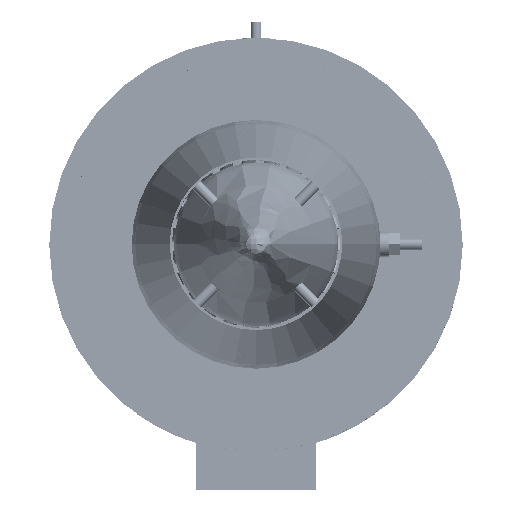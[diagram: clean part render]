
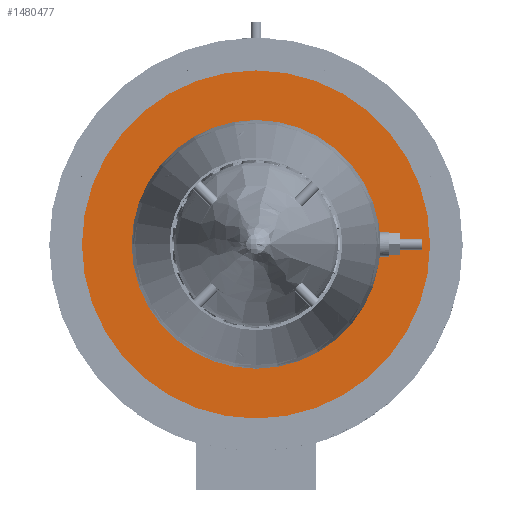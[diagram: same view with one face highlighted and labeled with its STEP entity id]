
A CAD part, top view. The second image highlights one B-rep face of the part: STEP entity #1480477.
In plain terms, the highlighted planar face has unit normal (0, 0, 1).
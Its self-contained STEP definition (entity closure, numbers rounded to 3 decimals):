
#1479051 = CYLINDRICAL_SURFACE('',#1479052,64.);
#1479052 = AXIS2_PLACEMENT_3D('',#1479053,#1479054,#1479055);
#1479053 = CARTESIAN_POINT('',(0.,0.,
    206.5));
#1479054 = DIRECTION('',(-0.,-0.,-1.));
#1479055 = DIRECTION('',(1.,0.,0.));
#1479168 = CYLINDRICAL_SURFACE('',#1479169,45.703);
#1479169 = AXIS2_PLACEMENT_3D('',#1479170,#1479171,#1479172);
#1479170 = CARTESIAN_POINT('',(0.,0.,240.));
#1479171 = DIRECTION('',(-0.,-0.,-1.));
#1479172 = DIRECTION('',(1.,0.,0.));
#1480237 = VERTEX_POINT('',#1480238);
#1480238 = CARTESIAN_POINT('',(64.,0.,207.7));
#1480261 = EDGE_CURVE('',#1480237,#1480237,#1480262,.T.);
#1480262 = SURFACE_CURVE('',#1480263,(#1480268,#1480275),.PCURVE_S1.);
#1480263 = CIRCLE('',#1480264,64.);
#1480264 = AXIS2_PLACEMENT_3D('',#1480265,#1480266,#1480267);
#1480265 = CARTESIAN_POINT('',(0.,0.,
    207.7));
#1480266 = DIRECTION('',(0.,0.,-1.));
#1480267 = DIRECTION('',(1.,0.,0.));
#1480268 = PCURVE('',#1479051,#1480269);
#1480269 = DEFINITIONAL_REPRESENTATION('',(#1480270),#1480274);
#1480270 = LINE('',#1480271,#1480272);
#1480271 = CARTESIAN_POINT('',(0.,-1.2));
#1480272 = VECTOR('',#1480273,1.);
#1480273 = DIRECTION('',(1.,-0.));
#1480274 = ( GEOMETRIC_REPRESENTATION_CONTEXT(2) 
PARAMETRIC_REPRESENTATION_CONTEXT() REPRESENTATION_CONTEXT('2D SPACE',''
  ) );
#1480275 = PCURVE('',#1480276,#1480281);
#1480276 = PLANE('',#1480277);
#1480277 = AXIS2_PLACEMENT_3D('',#1480278,#1480279,#1480280);
#1480278 = CARTESIAN_POINT('',(0.,0.,
    207.7));
#1480279 = DIRECTION('',(0.,0.,1.));
#1480280 = DIRECTION('',(1.,0.,-0.));
#1480281 = DEFINITIONAL_REPRESENTATION('',(#1480282),#1480290);
#1480282 = ( BOUNDED_CURVE() B_SPLINE_CURVE(2,(#1480283,#1480284,
    #1480285,#1480286,#1480287,#1480288,#1480289),.UNSPECIFIED.,.T.,.F.)
 B_SPLINE_CURVE_WITH_KNOTS((1,2,2,2,2,1),(-2.094,0.,
    2.094,4.189,6.283,8.378),
.UNSPECIFIED.) CURVE() GEOMETRIC_REPRESENTATION_ITEM() 
RATIONAL_B_SPLINE_CURVE((1.,0.5,1.,0.5,1.,0.5,1.)) REPRESENTATION_ITEM(
  '') );
#1480283 = CARTESIAN_POINT('',(64.,0.));
#1480284 = CARTESIAN_POINT('',(64.,-110.851));
#1480285 = CARTESIAN_POINT('',(-32.,-55.426));
#1480286 = CARTESIAN_POINT('',(-128.,0.));
#1480287 = CARTESIAN_POINT('',(-32.,55.426));
#1480288 = CARTESIAN_POINT('',(64.,110.851));
#1480289 = CARTESIAN_POINT('',(64.,0.));
#1480290 = ( GEOMETRIC_REPRESENTATION_CONTEXT(2) 
PARAMETRIC_REPRESENTATION_CONTEXT() REPRESENTATION_CONTEXT('2D SPACE',''
  ) );
#1480321 = VERTEX_POINT('',#1480322);
#1480322 = CARTESIAN_POINT('',(45.703,0.,207.7));
#1480343 = EDGE_CURVE('',#1480321,#1480321,#1480344,.T.);
#1480344 = SURFACE_CURVE('',#1480345,(#1480350,#1480357),.PCURVE_S1.);
#1480345 = CIRCLE('',#1480346,45.703);
#1480346 = AXIS2_PLACEMENT_3D('',#1480347,#1480348,#1480349);
#1480347 = CARTESIAN_POINT('',(0.,0.,207.7));
#1480348 = DIRECTION('',(0.,0.,-1.));
#1480349 = DIRECTION('',(1.,0.,0.));
#1480350 = PCURVE('',#1479168,#1480351);
#1480351 = DEFINITIONAL_REPRESENTATION('',(#1480352),#1480356);
#1480352 = LINE('',#1480353,#1480354);
#1480353 = CARTESIAN_POINT('',(0.,32.3));
#1480354 = VECTOR('',#1480355,1.);
#1480355 = DIRECTION('',(1.,-0.));
#1480356 = ( GEOMETRIC_REPRESENTATION_CONTEXT(2) 
PARAMETRIC_REPRESENTATION_CONTEXT() REPRESENTATION_CONTEXT('2D SPACE',''
  ) );
#1480357 = PCURVE('',#1480276,#1480358);
#1480358 = DEFINITIONAL_REPRESENTATION('',(#1480359),#1480367);
#1480359 = ( BOUNDED_CURVE() B_SPLINE_CURVE(2,(#1480360,#1480361,
    #1480362,#1480363,#1480364,#1480365,#1480366),.UNSPECIFIED.,.T.,.F.)
 B_SPLINE_CURVE_WITH_KNOTS((1,2,2,2,2,1),(-2.094,0.,
    2.094,4.189,6.283,8.378),
.UNSPECIFIED.) CURVE() GEOMETRIC_REPRESENTATION_ITEM() 
RATIONAL_B_SPLINE_CURVE((1.,0.5,1.,0.5,1.,0.5,1.)) REPRESENTATION_ITEM(
  '') );
#1480360 = CARTESIAN_POINT('',(45.703,0.));
#1480361 = CARTESIAN_POINT('',(45.703,-79.16));
#1480362 = CARTESIAN_POINT('',(-22.852,-39.58));
#1480363 = CARTESIAN_POINT('',(-91.406,0.));
#1480364 = CARTESIAN_POINT('',(-22.852,39.58));
#1480365 = CARTESIAN_POINT('',(45.703,79.16));
#1480366 = CARTESIAN_POINT('',(45.703,0.));
#1480367 = ( GEOMETRIC_REPRESENTATION_CONTEXT(2) 
PARAMETRIC_REPRESENTATION_CONTEXT() REPRESENTATION_CONTEXT('2D SPACE',''
  ) );
#1480477 = ADVANCED_FACE('',(#1480478,#1480481),#1480276,.T.);
#1480478 = FACE_BOUND('',#1480479,.T.);
#1480479 = EDGE_LOOP('',(#1480480));
#1480480 = ORIENTED_EDGE('',*,*,#1480261,.F.);
#1480481 = FACE_BOUND('',#1480482,.T.);
#1480482 = EDGE_LOOP('',(#1480483));
#1480483 = ORIENTED_EDGE('',*,*,#1480343,.T.);
